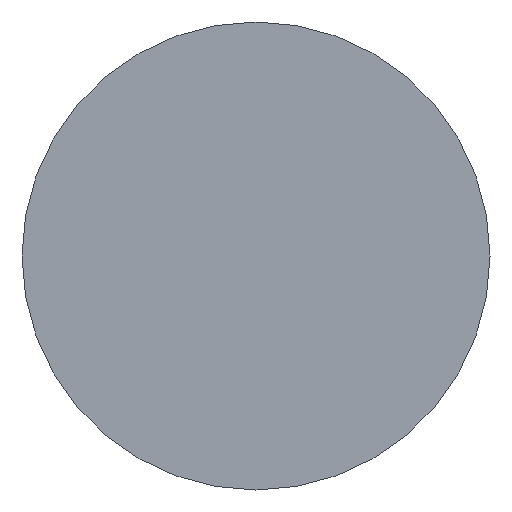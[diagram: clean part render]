
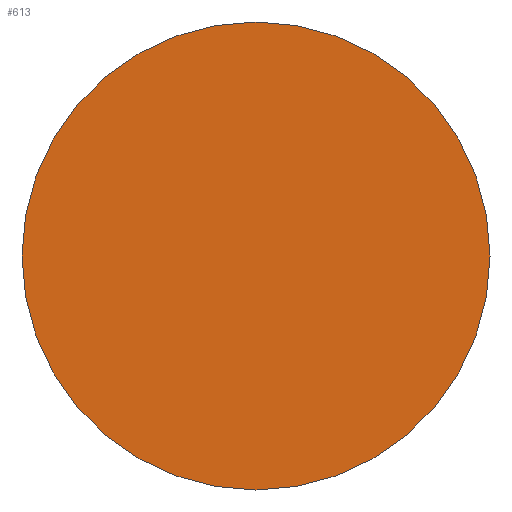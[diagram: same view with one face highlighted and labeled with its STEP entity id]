
A CAD part, front view. The second image highlights one B-rep face of the part: STEP entity #613.
In plain terms, the highlighted planar face has unit normal (0, -1, 0).
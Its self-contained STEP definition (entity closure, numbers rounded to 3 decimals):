
#3 = DIRECTION ( 'NONE',  ( 0., -1., 0. ) ) ;
#14 = PLANE ( 'NONE',  #1380 ) ;
#15 = EDGE_CURVE ( 'NONE', #859, #2294, #46, .T. ) ;
#46 = CIRCLE ( 'NONE', #520, 19.5 ) ;
#91 = DIRECTION ( 'NONE',  ( -1., 0., 0. ) ) ;
#102 = EDGE_CURVE ( 'NONE', #2294, #859, #1155, .T. ) ;
#172 = EDGE_LOOP ( 'NONE', ( #1745, #2698 ) ) ;
#298 = CARTESIAN_POINT ( 'NONE',  ( 0., -49.5, 31.5 ) ) ;
#520 = AXIS2_PLACEMENT_3D ( 'NONE', #1333, #757, #2216 ) ;
#613 = ADVANCED_FACE ( 'NONE', ( #1609 ), #14, .T. ) ;
#757 = DIRECTION ( 'NONE',  ( 0., -1., 0. ) ) ;
#859 = VERTEX_POINT ( 'NONE', #1026 ) ;
#1026 = CARTESIAN_POINT ( 'NONE',  ( 19.5, -49.5, 31.5 ) ) ;
#1155 = CIRCLE ( 'NONE', #1979, 19.5 ) ;
#1313 = CARTESIAN_POINT ( 'NONE',  ( -19.5, -49.5, 31.5 ) ) ;
#1333 = CARTESIAN_POINT ( 'NONE',  ( 0., -49.5, 31.5 ) ) ;
#1380 = AXIS2_PLACEMENT_3D ( 'NONE', #2664, #3, #2061 ) ;
#1547 = DIRECTION ( 'NONE',  ( 0., -1., 0. ) ) ;
#1609 = FACE_OUTER_BOUND ( 'NONE', #172, .T. ) ;
#1745 = ORIENTED_EDGE ( 'NONE', *, *, #102, .T. ) ;
#1979 = AXIS2_PLACEMENT_3D ( 'NONE', #298, #1547, #91 ) ;
#2061 = DIRECTION ( 'NONE',  ( -1., 0., 0. ) ) ;
#2216 = DIRECTION ( 'NONE',  ( -1., 0., 0. ) ) ;
#2294 = VERTEX_POINT ( 'NONE', #1313 ) ;
#2664 = CARTESIAN_POINT ( 'NONE',  ( 9.75, -49.5, 31.5 ) ) ;
#2698 = ORIENTED_EDGE ( 'NONE', *, *, #15, .T. ) ;
